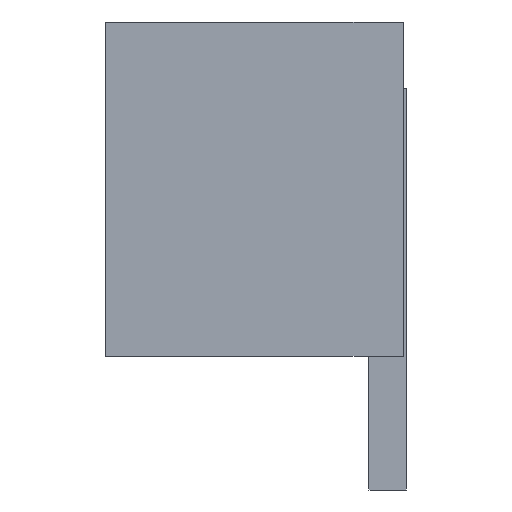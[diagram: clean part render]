
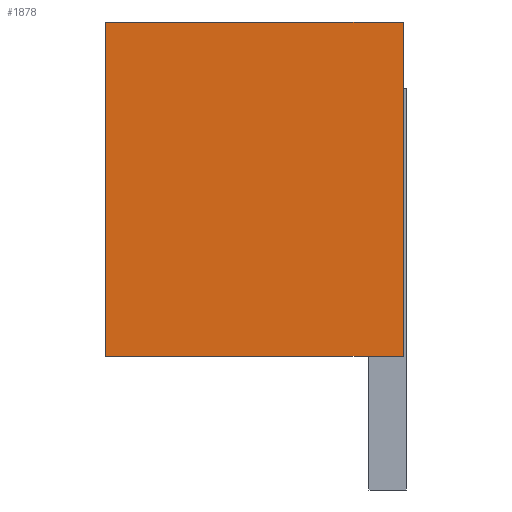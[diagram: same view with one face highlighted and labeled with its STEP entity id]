
A CAD part, left-side view. The second image highlights one B-rep face of the part: STEP entity #1878.
In plain terms, the highlighted planar face has unit normal (-1, 0, 0).
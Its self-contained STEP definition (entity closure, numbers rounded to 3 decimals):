
#66=DIRECTION('',(0.,-1.,0.));
#67=VECTOR('',#66,4.45);
#68=CARTESIAN_POINT('',(-3.,2.225,0.));
#69=LINE('',#68,#67);
#466=DIRECTION('',(0.,-1.,0.));
#467=VECTOR('',#466,4.45);
#468=CARTESIAN_POINT('',(-3.,2.225,-5.));
#469=LINE('',#468,#467);
#514=DIRECTION('',(0.,0.,-1.));
#515=VECTOR('',#514,5.);
#516=CARTESIAN_POINT('',(-3.,-2.225,0.));
#517=LINE('',#516,#515);
#590=DIRECTION('',(0.,0.,-1.));
#591=VECTOR('',#590,5.);
#592=CARTESIAN_POINT('',(-3.,2.225,0.));
#593=LINE('',#592,#591);
#826=CARTESIAN_POINT('',(-3.,2.225,0.));
#827=CARTESIAN_POINT('',(-3.,-2.225,0.));
#828=VERTEX_POINT('',#826);
#829=VERTEX_POINT('',#827);
#834=CARTESIAN_POINT('',(-3.,2.225,-5.));
#835=CARTESIAN_POINT('',(-3.,-2.225,-5.));
#836=VERTEX_POINT('',#834);
#837=VERTEX_POINT('',#835);
#1866=CARTESIAN_POINT('',(-3.,2.225,0.));
#1867=DIRECTION('',(-1.,0.,0.));
#1868=DIRECTION('',(0.,-1.,0.));
#1869=AXIS2_PLACEMENT_3D('',#1866,#1867,#1868);
#1870=PLANE('',#1869);
#1871=ORIENTED_EDGE('',*,*,#1127,.T.);
#1872=ORIENTED_EDGE('',*,*,#1796,.T.);
#1873=ORIENTED_EDGE('',*,*,#1764,.F.);
#1875=ORIENTED_EDGE('',*,*,#1874,.F.);
#1876=EDGE_LOOP('',(#1871,#1872,#1873,#1875));
#1877=FACE_OUTER_BOUND('',#1876,.F.);
#1127=EDGE_CURVE('',#828,#829,#69,.T.);
#1764=EDGE_CURVE('',#836,#837,#469,.T.);
#1796=EDGE_CURVE('',#829,#837,#517,.T.);
#1874=EDGE_CURVE('',#828,#836,#593,.T.);
#1878=ADVANCED_FACE('',(#1877),#1870,.T.);
